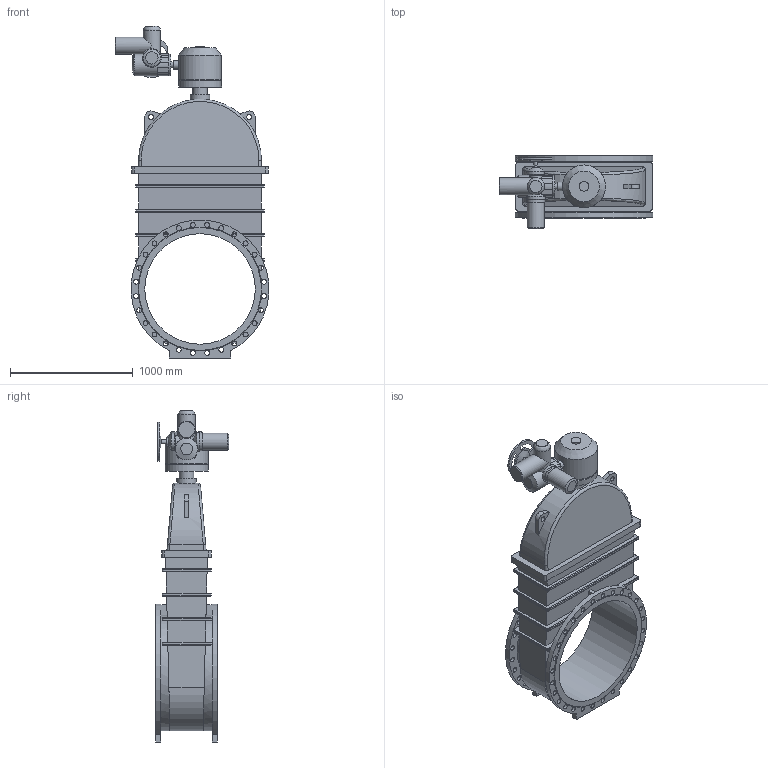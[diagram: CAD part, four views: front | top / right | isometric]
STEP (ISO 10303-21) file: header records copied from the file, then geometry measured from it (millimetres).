
FILE_DESCRIPTION(('STEP AP203'), '1');
FILE_NAME('Çàäâèæêà 47GV.Z DN900 PN16 + ðåäóêòîð+ÌÒ903.À30', '', ('UNSPECIFIED'), ('UNSPECIFIED'), 'ASCON STEP Converter 1.6', 'ASCON Math Kernel', '');
FILE_SCHEMA(('CONFIG_CONTROL_DESIGN'));
Length unit declared in the file: millimetre
Bounding box: 1253.03 x 599 x 2704.5 mm (x, y, z)
Volume: 473661925 mm3; surface area: 9611472 mm2
Topology: 1 solids, 1 shells, 361 faces, 899 edges, 572 vertices
Faces by surface type: cylinder 175, plane 139, bspline 34, cone 12, torus 1
Full cylindrical faces by diameter (mm): 14 x4, 18 x4, 32 x1, 40 x58, 50 x1, 60 x1, 70 x1, 80 x1, 100 x1, 120 x1, 140 x4, 147 x1, 151 x1, 160 x1, 175 x1, 330 x1, 350 x2, 900 x1
Entity records: 18048 total; most frequent: CARTESIAN_POINT 6890, DIRECTION 1619, ORIENTED_EDGE 1604, EDGE_CURVE 802, AXIS2_PLACEMENT_3D 632, EDGE_LOOP 614, VERTEX_POINT 572, FACE_BOUND 425
